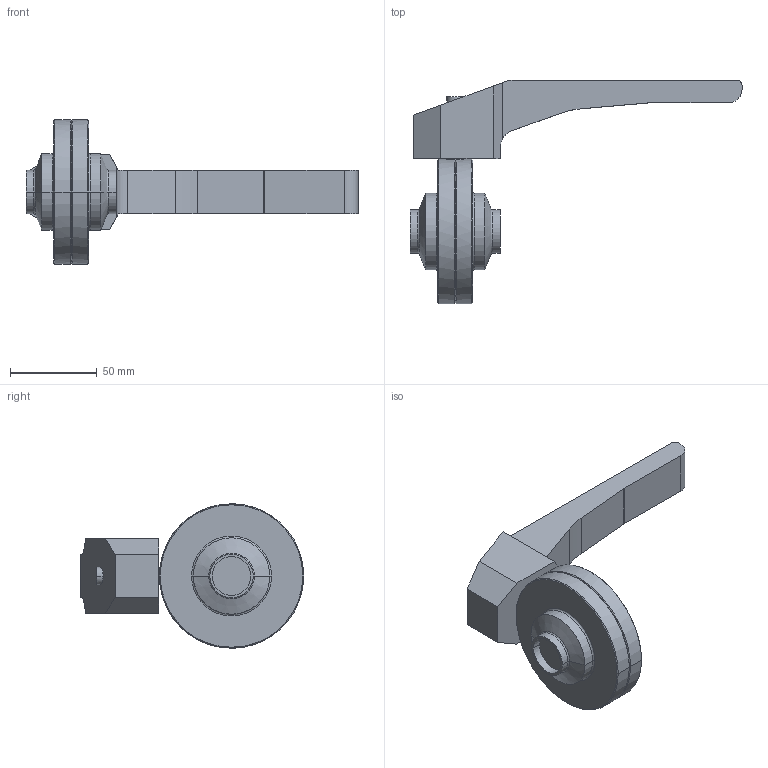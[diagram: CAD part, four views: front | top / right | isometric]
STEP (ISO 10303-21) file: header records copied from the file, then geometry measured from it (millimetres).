
FILE_DESCRIPTION(('OneSpaceDesigner STEP Export'),'2;1');
FILE_NAME('SV1-1zoll-H-12S.stp','2007-04-20T11:46:44',(''),(''),'OneSpace Designer STEP processor for AP214 (Solid Model)','OneSpace Modeling 15.00 06-Feb-2007 (C) CoCreate Software GmbH','');
FILE_SCHEMA(('AUTOMOTIVE_DESIGN { 1 0 10303 214 1 1 1 1 }'));
Length unit declared in the file: millimetre
Products named in the file (3): Handhebel-SV-40-100; Gehäusehälfte-SV1-1zoll-1S; SV1-1zoll-H-12S-vereint
Assembly tree (2 placements, depth 2):
  SV1-1zoll-H-12S-vereint
    Gehäusehälfte-SV1-1zoll-1S
    Handhebel-SV-40-100
Bounding box: 191 x 128.5 x 83 mm (x, y, z)
Volume: 265544.4 mm3; surface area: 40655 mm2
Topology: 2 solids, 2 shells, 70 faces, 157 edges, 96 vertices
Faces by surface type: cylinder 25, plane 25, cone 12, torus 8
Entity records: 2226 total; most frequent: CARTESIAN_POINT 724, ORIENTED_EDGE 314, DIRECTION 275, EDGE_CURVE 157, AXIS2_PLACEMENT_3D 99, VERTEX_POINT 96, VECTOR 77, LINE 77
